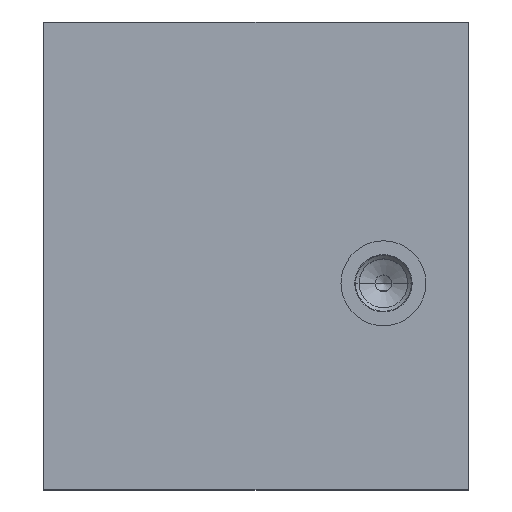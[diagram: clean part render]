
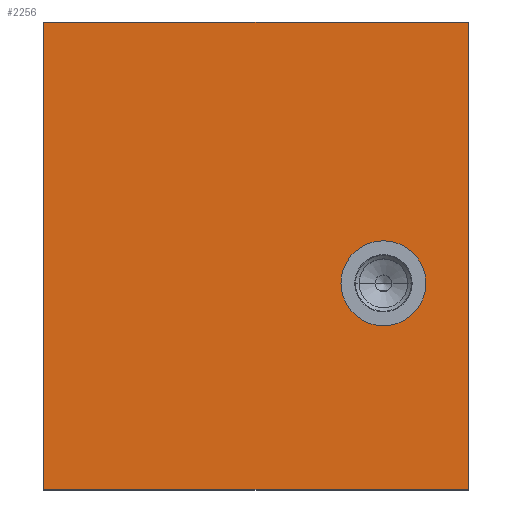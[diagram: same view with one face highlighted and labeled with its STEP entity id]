
A CAD part, top view. The second image highlights one B-rep face of the part: STEP entity #2256.
In plain terms, the highlighted planar face has unit normal (0, 0, 1).
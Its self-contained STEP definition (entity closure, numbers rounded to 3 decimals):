
#31=DIRECTION('',(0.,-1.,0.));
#32=VECTOR('',#31,110.);
#33=CARTESIAN_POINT('',(0.,110.,0.));
#34=LINE('',#33,#32);
#75=DIRECTION('',(1.,0.,0.));
#76=VECTOR('',#75,100.);
#77=CARTESIAN_POINT('',(0.,0.,0.));
#78=LINE('',#77,#76);
#89=DIRECTION('',(1.,0.,0.));
#90=VECTOR('',#89,100.);
#91=CARTESIAN_POINT('',(0.,110.,0.));
#92=LINE('',#91,#90);
#93=CARTESIAN_POINT('',(80.,48.5,0.));
#94=DIRECTION('',(0.,0.,-1.));
#95=DIRECTION('',(1.,0.,0.));
#96=AXIS2_PLACEMENT_3D('',#93,#94,#95);
#98=CARTESIAN_POINT('',(80.,48.5,0.));
#99=DIRECTION('',(0.,0.,-1.));
#100=DIRECTION('',(-1.,0.,0.));
#101=AXIS2_PLACEMENT_3D('',#98,#99,#100);
#145=DIRECTION('',(0.,-1.,0.));
#146=VECTOR('',#145,110.);
#147=CARTESIAN_POINT('',(100.,110.,0.));
#148=LINE('',#147,#146);
#1805=CARTESIAN_POINT('',(0.,0.,0.));
#1807=VERTEX_POINT('',#1805);
#1811=CARTESIAN_POINT('',(0.,110.,0.));
#1812=VERTEX_POINT('',#1811);
#1813=CARTESIAN_POINT('',(100.,0.,0.));
#1815=VERTEX_POINT('',#1813);
#1819=CARTESIAN_POINT('',(100.,110.,0.));
#1820=VERTEX_POINT('',#1819);
#2049=CARTESIAN_POINT('',(90.,48.5,0.));
#2050=VERTEX_POINT('',#2049);
#2051=CARTESIAN_POINT('',(70.,48.5,0.));
#2052=VERTEX_POINT('',#2051);
#2237=CARTESIAN_POINT('',(0.,110.,0.));
#2238=DIRECTION('',(0.,0.,1.));
#2239=DIRECTION('',(0.,-1.,0.));
#2240=AXIS2_PLACEMENT_3D('',#2237,#2238,#2239);
#2241=PLANE('',#2240);
#2242=ORIENTED_EDGE('',*,*,#2173,.F.);
#2244=ORIENTED_EDGE('',*,*,#2243,.T.);
#2246=ORIENTED_EDGE('',*,*,#2245,.T.);
#2247=ORIENTED_EDGE('',*,*,#2215,.F.);
#2248=EDGE_LOOP('',(#2242,#2244,#2246,#2247));
#2249=FACE_OUTER_BOUND('',#2248,.F.);
#2251=ORIENTED_EDGE('',*,*,#2250,.F.);
#2253=ORIENTED_EDGE('',*,*,#2252,.F.);
#2254=EDGE_LOOP('',(#2251,#2253));
#2255=FACE_BOUND('',#2254,.F.);
#97=CIRCLE('',#96,10.);
#102=CIRCLE('',#101,10.);
#2173=EDGE_CURVE('',#1812,#1807,#34,.T.);
#2215=EDGE_CURVE('',#1807,#1815,#78,.T.);
#2243=EDGE_CURVE('',#1812,#1820,#92,.T.);
#2245=EDGE_CURVE('',#1820,#1815,#148,.T.);
#2250=EDGE_CURVE('',#2050,#2052,#97,.T.);
#2252=EDGE_CURVE('',#2052,#2050,#102,.T.);
#2256=ADVANCED_FACE('',(#2249,#2255),#2241,.T.);
